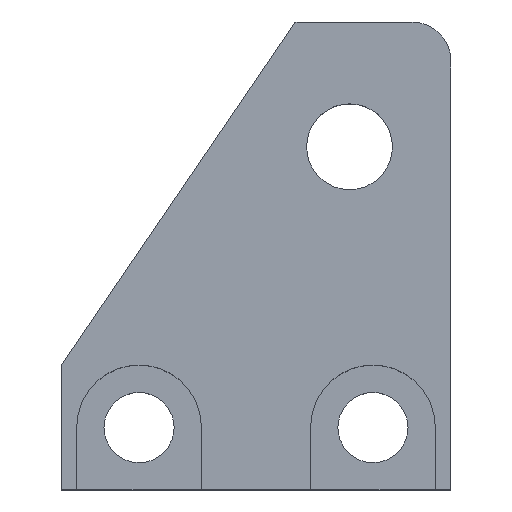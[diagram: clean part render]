
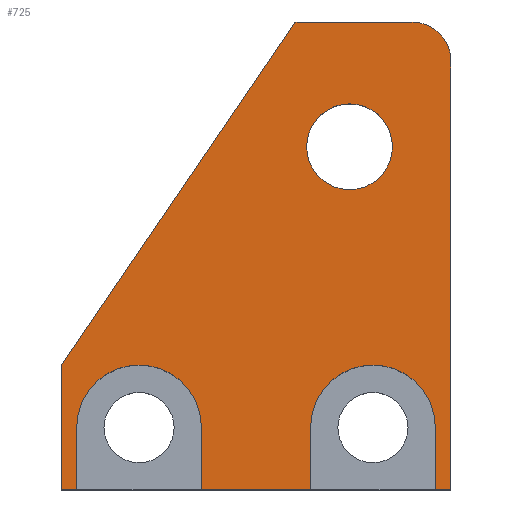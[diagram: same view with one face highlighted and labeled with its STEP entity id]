
A CAD part, top view. The second image highlights one B-rep face of the part: STEP entity #725.
In plain terms, the highlighted planar face has unit normal (0, 0, 1).
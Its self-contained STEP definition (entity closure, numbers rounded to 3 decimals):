
#9 = EDGE_CURVE ( 'NONE', #643, #695, #147, .T. ) ;
#12 = DIRECTION ( 'NONE',  ( 1., 0., 0. ) ) ;
#23 = LINE ( 'NONE', #488, #319 ) ;
#24 = DIRECTION ( 'NONE',  ( 0., -1., 0. ) ) ;
#29 = CARTESIAN_POINT ( 'NONE',  ( -3.5, -11., 3. ) ) ;
#44 = EDGE_LOOP ( 'NONE', ( #62, #168, #252, #486, #346, #227, #507, #65, #727, #232, #610, #72, #568, #663 ) ) ;
#46 = CARTESIAN_POINT ( 'NONE',  ( -12.5, -7., 3. ) ) ;
#56 = CARTESIAN_POINT ( 'NONE',  ( 7.5, -11., 3. ) ) ;
#59 = LINE ( 'NONE', #522, #498 ) ;
#62 = ORIENTED_EDGE ( 'NONE', *, *, #315, .T. ) ;
#65 = ORIENTED_EDGE ( 'NONE', *, *, #501, .F. ) ;
#68 = DIRECTION ( 'NONE',  ( 1., 0., 0. ) ) ;
#72 = ORIENTED_EDGE ( 'NONE', *, *, #551, .F. ) ;
#84 = CIRCLE ( 'NONE', #735, 4. ) ;
#85 = CARTESIAN_POINT ( 'NONE',  ( -11.5, -15., 3. ) ) ;
#88 = AXIS2_PLACEMENT_3D ( 'NONE', #635, #609, #720 ) ;
#100 = CIRCLE ( 'NONE', #489, 2.5 ) ;
#104 = FACE_OUTER_BOUND ( 'NONE', #44, .T. ) ;
#120 = VECTOR ( 'NONE', #300, 1000. ) ;
#138 = LINE ( 'NONE', #583, #557 ) ;
#141 = CARTESIAN_POINT ( 'NONE',  ( 6., 7., 3. ) ) ;
#142 = EDGE_CURVE ( 'NONE', #658, #641, #467, .T. ) ;
#144 = DIRECTION ( 'NONE',  ( 1., 0., 0. ) ) ;
#147 = CIRCLE ( 'NONE', #413, 2.75 ) ;
#152 = EDGE_CURVE ( 'NONE', #634, #378, #100, .T. ) ;
#162 = DIRECTION ( 'NONE',  ( 0., 0., 1. ) ) ;
#163 = DIRECTION ( 'NONE',  ( 0., -1., 0. ) ) ;
#168 = ORIENTED_EDGE ( 'NONE', *, *, #152, .T. ) ;
#169 = EDGE_CURVE ( 'NONE', #377, #630, #478, .T. ) ;
#181 = CARTESIAN_POINT ( 'NONE',  ( 0., 0., 3. ) ) ;
#206 = CARTESIAN_POINT ( 'NONE',  ( -11.5, -11., 3. ) ) ;
#218 = LINE ( 'NONE', #259, #419 ) ;
#222 = AXIS2_PLACEMENT_3D ( 'NONE', #181, #162, #272 ) ;
#223 = CARTESIAN_POINT ( 'NONE',  ( -12.5, 15., 3. ) ) ;
#227 = ORIENTED_EDGE ( 'NONE', *, *, #169, .T. ) ;
#228 = CARTESIAN_POINT ( 'NONE',  ( 3.5, -11., 3. ) ) ;
#232 = ORIENTED_EDGE ( 'NONE', *, *, #351, .T. ) ;
#240 = PLANE ( 'NONE',  #222 ) ;
#252 = ORIENTED_EDGE ( 'NONE', *, *, #599, .T. ) ;
#254 = DIRECTION ( 'NONE',  ( 0., 0., 1. ) ) ;
#258 = DIRECTION ( 'NONE',  ( 1., 0., 0. ) ) ;
#259 = CARTESIAN_POINT ( 'NONE',  ( -12.5, 15., 3. ) ) ;
#260 = CARTESIAN_POINT ( 'NONE',  ( 6., 7., 3. ) ) ;
#261 = CARTESIAN_POINT ( 'NONE',  ( -3.5, -11., 3. ) ) ;
#266 = CARTESIAN_POINT ( 'NONE',  ( 12.5, -15., 3. ) ) ;
#272 = DIRECTION ( 'NONE',  ( 1., 0., 0. ) ) ;
#276 = CARTESIAN_POINT ( 'NONE',  ( 12.5, 12.5, 3. ) ) ;
#288 = EDGE_CURVE ( 'NONE', #308, #546, #368, .T. ) ;
#294 = CARTESIAN_POINT ( 'NONE',  ( 11.5, -15., 3. ) ) ;
#300 = DIRECTION ( 'NONE',  ( 0.563, 0.826, 0. ) ) ;
#305 = CARTESIAN_POINT ( 'NONE',  ( 10., 12.5, 3. ) ) ;
#308 = VERTEX_POINT ( 'NONE', #46 ) ;
#315 = EDGE_CURVE ( 'NONE', #685, #634, #386, .T. ) ;
#316 = DIRECTION ( 'NONE',  ( 0., 0., 1. ) ) ;
#317 = VECTOR ( 'NONE', #596, 1000. ) ;
#319 = VECTOR ( 'NONE', #502, 1000. ) ;
#324 = CARTESIAN_POINT ( 'NONE',  ( 3.25, 7., 3. ) ) ;
#327 = LINE ( 'NONE', #29, #647 ) ;
#329 = CARTESIAN_POINT ( 'NONE',  ( 3.5, -15., 3. ) ) ;
#332 = CARTESIAN_POINT ( 'NONE',  ( 8.75, 7., 3. ) ) ;
#346 = ORIENTED_EDGE ( 'NONE', *, *, #645, .T. ) ;
#351 = EDGE_CURVE ( 'NONE', #569, #641, #138, .T. ) ;
#360 = VERTEX_POINT ( 'NONE', #538 ) ;
#363 = ORIENTED_EDGE ( 'NONE', *, *, #684, .F. ) ;
#368 = LINE ( 'NONE', #589, #120 ) ;
#377 = VERTEX_POINT ( 'NONE', #504 ) ;
#378 = VERTEX_POINT ( 'NONE', #480 ) ;
#383 = VECTOR ( 'NONE', #743, 1000. ) ;
#386 = LINE ( 'NONE', #714, #317 ) ;
#401 = VECTOR ( 'NONE', #163, 1000. ) ;
#403 = VECTOR ( 'NONE', #12, 1000. ) ;
#407 = DIRECTION ( 'NONE',  ( 1., 0., 0. ) ) ;
#413 = AXIS2_PLACEMENT_3D ( 'NONE', #141, #656, #472 ) ;
#419 = VECTOR ( 'NONE', #528, 1000. ) ;
#434 = EDGE_CURVE ( 'NONE', #548, #360, #23, .T. ) ;
#455 = EDGE_CURVE ( 'NONE', #569, #650, #327, .T. ) ;
#467 = LINE ( 'NONE', #623, #649 ) ;
#472 = DIRECTION ( 'NONE',  ( 1., 0., 0. ) ) ;
#474 = EDGE_CURVE ( 'NONE', #607, #630, #475, .T. ) ;
#475 = LINE ( 'NONE', #206, #383 ) ;
#478 = LINE ( 'NONE', #544, #403 ) ;
#480 = CARTESIAN_POINT ( 'NONE',  ( 10., 15., 3. ) ) ;
#486 = ORIENTED_EDGE ( 'NONE', *, *, #288, .F. ) ;
#488 = CARTESIAN_POINT ( 'NONE',  ( 11.5, -11., 3. ) ) ;
#489 = AXIS2_PLACEMENT_3D ( 'NONE', #305, #254, #68 ) ;
#498 = VECTOR ( 'NONE', #749, 1000. ) ;
#499 = CARTESIAN_POINT ( 'NONE',  ( 2.5, 15., 3. ) ) ;
#501 = EDGE_CURVE ( 'NONE', #650, #607, #747, .T. ) ;
#502 = DIRECTION ( 'NONE',  ( 0., 1., 0. ) ) ;
#504 = CARTESIAN_POINT ( 'NONE',  ( -12.5, -15., 3. ) ) ;
#507 = ORIENTED_EDGE ( 'NONE', *, *, #474, .F. ) ;
#522 = CARTESIAN_POINT ( 'NONE',  ( -12.5, -15., 3. ) ) ;
#524 = CARTESIAN_POINT ( 'NONE',  ( -3.5, -15., 3. ) ) ;
#528 = DIRECTION ( 'NONE',  ( -1., 0., 0. ) ) ;
#538 = CARTESIAN_POINT ( 'NONE',  ( 11.5, -11., 3. ) ) ;
#544 = CARTESIAN_POINT ( 'NONE',  ( -12.5, -15., 3. ) ) ;
#545 = AXIS2_PLACEMENT_3D ( 'NONE', #260, #316, #258 ) ;
#546 = VERTEX_POINT ( 'NONE', #499 ) ;
#548 = VERTEX_POINT ( 'NONE', #294 ) ;
#551 = EDGE_CURVE ( 'NONE', #360, #658, #84, .T. ) ;
#557 = VECTOR ( 'NONE', #407, 1000. ) ;
#568 = ORIENTED_EDGE ( 'NONE', *, *, #434, .F. ) ;
#569 = VERTEX_POINT ( 'NONE', #524 ) ;
#583 = CARTESIAN_POINT ( 'NONE',  ( -12.5, -15., 3. ) ) ;
#584 = DIRECTION ( 'NONE',  ( 0., 0., 1. ) ) ;
#589 = CARTESIAN_POINT ( 'NONE',  ( 2.5, 15., 3. ) ) ;
#590 = EDGE_CURVE ( 'NONE', #548, #685, #59, .T. ) ;
#596 = DIRECTION ( 'NONE',  ( 0., 1., 0. ) ) ;
#599 = EDGE_CURVE ( 'NONE', #378, #546, #218, .T. ) ;
#607 = VERTEX_POINT ( 'NONE', #723 ) ;
#609 = DIRECTION ( 'NONE',  ( 0., 0., 1. ) ) ;
#610 = ORIENTED_EDGE ( 'NONE', *, *, #142, .F. ) ;
#613 = DIRECTION ( 'NONE',  ( 0., 1., 0. ) ) ;
#623 = CARTESIAN_POINT ( 'NONE',  ( 3.5, -11., 3. ) ) ;
#630 = VERTEX_POINT ( 'NONE', #85 ) ;
#634 = VERTEX_POINT ( 'NONE', #276 ) ;
#635 = CARTESIAN_POINT ( 'NONE',  ( -7.5, -11., 3. ) ) ;
#641 = VERTEX_POINT ( 'NONE', #329 ) ;
#643 = VERTEX_POINT ( 'NONE', #332 ) ;
#645 = EDGE_CURVE ( 'NONE', #308, #377, #648, .T. ) ;
#647 = VECTOR ( 'NONE', #613, 1000. ) ;
#648 = LINE ( 'NONE', #223, #401 ) ;
#649 = VECTOR ( 'NONE', #24, 1000. ) ;
#650 = VERTEX_POINT ( 'NONE', #261 ) ;
#653 = FACE_BOUND ( 'NONE', #718, .T. ) ;
#656 = DIRECTION ( 'NONE',  ( 0., 0., 1. ) ) ;
#658 = VERTEX_POINT ( 'NONE', #228 ) ;
#663 = ORIENTED_EDGE ( 'NONE', *, *, #590, .T. ) ;
#684 = EDGE_CURVE ( 'NONE', #695, #643, #715, .T. ) ;
#685 = VERTEX_POINT ( 'NONE', #266 ) ;
#695 = VERTEX_POINT ( 'NONE', #324 ) ;
#706 = ORIENTED_EDGE ( 'NONE', *, *, #9, .F. ) ;
#714 = CARTESIAN_POINT ( 'NONE',  ( 12.5, 15., 3. ) ) ;
#715 = CIRCLE ( 'NONE', #545, 2.75 ) ;
#718 = EDGE_LOOP ( 'NONE', ( #706, #363 ) ) ;
#720 = DIRECTION ( 'NONE',  ( 1., 0., 0. ) ) ;
#723 = CARTESIAN_POINT ( 'NONE',  ( -11.5, -11., 3. ) ) ;
#725 = ADVANCED_FACE ( 'NONE', ( #104, #653 ), #240, .T. ) ;
#727 = ORIENTED_EDGE ( 'NONE', *, *, #455, .F. ) ;
#735 = AXIS2_PLACEMENT_3D ( 'NONE', #56, #584, #144 ) ;
#743 = DIRECTION ( 'NONE',  ( 0., -1., 0. ) ) ;
#747 = CIRCLE ( 'NONE', #88, 4. ) ;
#749 = DIRECTION ( 'NONE',  ( 1., 0., 0. ) ) ;
